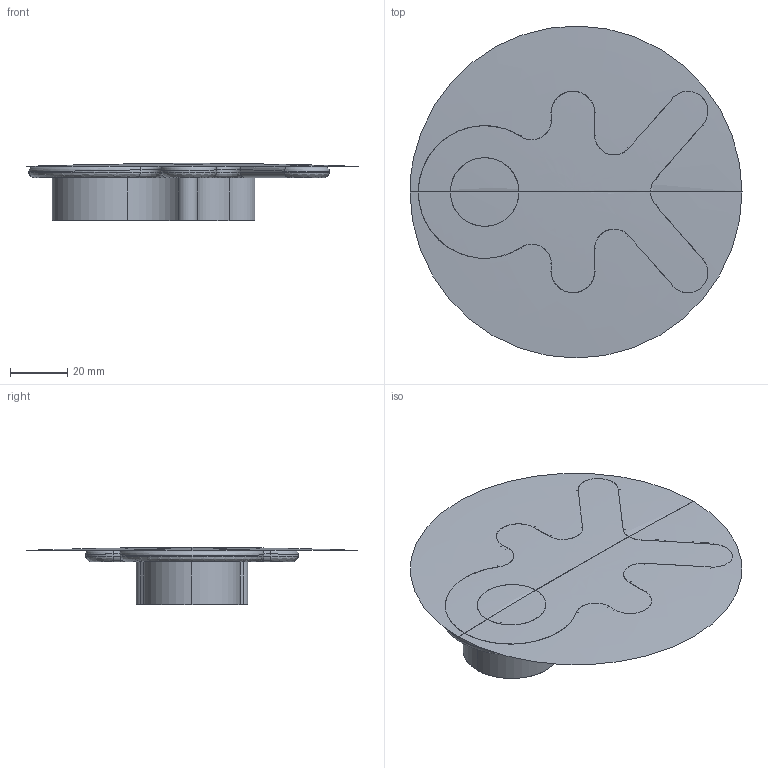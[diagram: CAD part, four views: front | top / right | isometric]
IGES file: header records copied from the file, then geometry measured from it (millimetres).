
Start section: Comment
Global section: file name: 8179-106.igs; native system: Parasolid(12.0); preprocessor: Pariges 4.4; author: Author; organization: Title; date: 20181104.091228; units: millimetre
Bounding box: 116.3 x 116.29 x 20 mm (x, y, z)
Surface area: 29884.4 mm2 (no closed solid volume)
Topology: 0 solids, 0 shells, 113 faces, 1424 edges, 1418 vertices
Faces by surface type: revolution 82, extrusion 20, bspline 11
